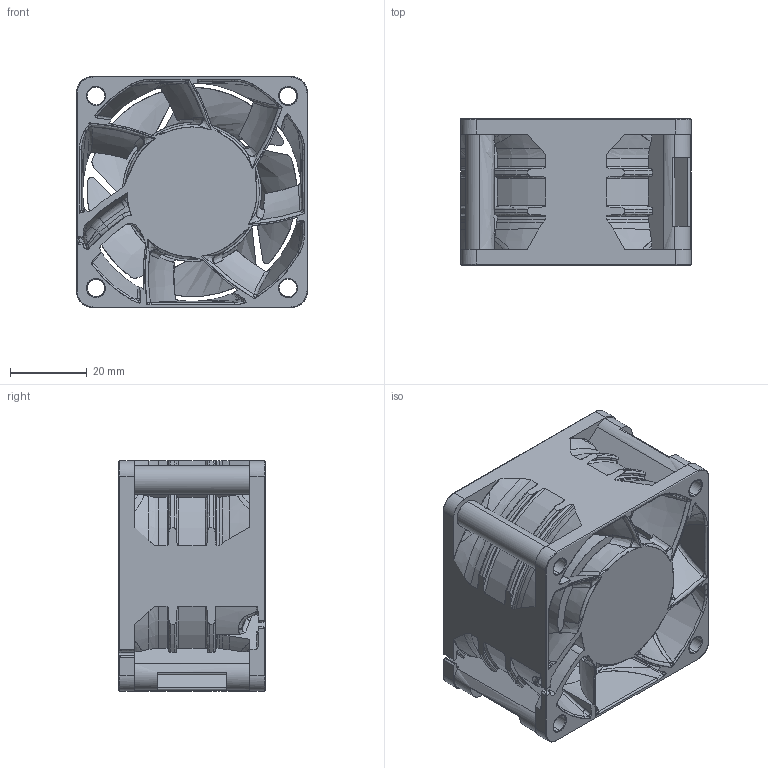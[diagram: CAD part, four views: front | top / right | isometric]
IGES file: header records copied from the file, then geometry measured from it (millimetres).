
Start section: SolidWorks IGES file using analytic representation for surfaces
Global section: file name: C:\Users\koike-masahiro\Desktop\3D 各種モデル\9GA_60x38_R\6038GA_RIBBED.IGS; native system: SolidWorks 2017; preprocessor: SolidWorks 2017; author: Koike-Masahiro; date: 170323.141012; units: millimetre
Bounding box: 60 x 38 x 60 mm (x, y, z)
Surface area: 33359.5 mm2 (no closed solid volume)
Topology: 0 solids, 0 shells, 802 faces, 9331 edges, 9315 vertices
Faces by surface type: bspline 564, revolution 238
